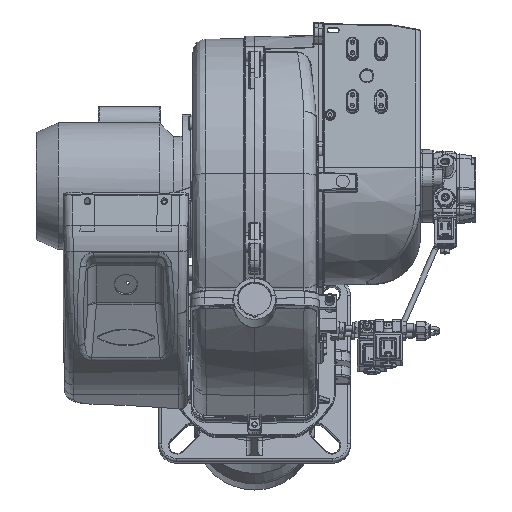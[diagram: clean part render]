
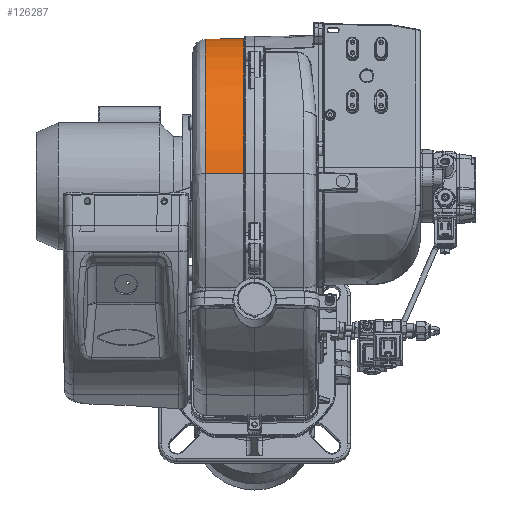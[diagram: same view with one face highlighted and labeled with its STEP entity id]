
A CAD part, top view. The second image highlights one B-rep face of the part: STEP entity #126287.
In plain terms, the highlighted conical face has half-angle 1 degrees and reference radius 174.291 mm.
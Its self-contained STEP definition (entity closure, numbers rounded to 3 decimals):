
#7101 = EDGE_CURVE ( 'NONE', #110701, #46347, #105419, .T. ) ;
#7154 = CARTESIAN_POINT ( 'NONE',  ( -2162.379, 1737.928, -764.442 ) ) ;
#7243 = CARTESIAN_POINT ( 'NONE',  ( -2162.379, 1770.774, -771.952 ) ) ;
#7850 = CARTESIAN_POINT ( 'NONE',  ( -2162.379, 1887.202, -961.739 ) ) ;
#8339 = B_SPLINE_CURVE_WITH_KNOTS ( 'NONE', 3,
 ( #151496, #53478, #123873, #39995, #137997, #54074, #152091, #68208, #166119, #82270, #180156, #96363, #12220, #110436, #26450, #124497, #40605, #138604, #54689, #152690, #68806, #166714, #82877, #180757, #96971, #12839, #111050, #27061, #125106, #41222, #139214, #55298, #153300, #69405 ),
 .UNSPECIFIED., .F., .F.,
 ( 4, 2, 2, 2, 2, 2, 2, 2, 2, 2, 2, 2, 2, 2, 2, 2, 4 ),
 ( 0., 0.063, 0.125, 0.188, 0.25, 0.313, 0.375, 0.438, 0.5, 0.563, 0.625, 0.688, 0.75, 0.813, 0.875, 0.938, 1. ),
 .UNSPECIFIED. ) ;
#8862 = CARTESIAN_POINT ( 'NONE',  ( -2119.117, 1854.414, -1041.383 ) ) ;
#12220 = CARTESIAN_POINT ( 'NONE',  ( -2119.117, 1848.549, -823.974 ) ) ;
#12839 = CARTESIAN_POINT ( 'NONE',  ( -2119.117, 1887.226, -965.639 ) ) ;
#16878 = VERTEX_POINT ( 'NONE', #41497 ) ;
#19599 = B_SPLINE_CURVE_WITH_KNOTS ( 'NONE', 3,
 ( #63214, #118952, #91433, #7243, #105514, #21423, #119543, #35614, #133645, #49724, #147743, #63818, #161790, #77912, #175842, #92048, #7850, #106117, #22052, #120149, #36225, #134271, #50335 ),
 .UNSPECIFIED., .F., .F.,
 ( 4, 1, 1, 1, 1, 1, 1, 1, 1, 1, 1, 1, 1, 1, 1, 1, 1, 1, 1, 1, 4 ),
 ( 0., 0.062, 0.093, 0.125, 0.187, 0.25, 0.281, 0.312, 0.375, 0.437, 0.5, 0.562, 0.625, 0.687, 0.719, 0.75, 0.812, 0.875, 0.906, 0.937, 1. ),
 .UNSPECIFIED. ) ;
#21054 = CARTESIAN_POINT ( 'NONE',  ( -2147.959, 1854.015, -1041.076 ) ) ;
#21423 = CARTESIAN_POINT ( 'NONE',  ( -2162.379, 1801.88, -785.566 ) ) ;
#22052 = CARTESIAN_POINT ( 'NONE',  ( -2162.379, 1877.702, -998.253 ) ) ;
#22420 = B_SPLINE_CURVE_WITH_KNOTS ( 'NONE', 3,
 ( #77213, #63131, #91350, #7154 ),
 .UNSPECIFIED., .F., .F.,
 ( 4, 4 ),
 ( 0., 1. ),
 .UNSPECIFIED. ) ;
#26281 = ORIENTED_EDGE ( 'NONE', *, *, #36250, .F. ) ;
#26450 = CARTESIAN_POINT ( 'NONE',  ( -2119.117, 1862.041, -842.255 ) ) ;
#27061 = CARTESIAN_POINT ( 'NONE',  ( -2119.117, 1881.978, -987.746 ) ) ;
#33823 = VERTEX_POINT ( 'NONE', #86136 ) ;
#35614 = CARTESIAN_POINT ( 'NONE',  ( -2162.379, 1829.318, -805.567 ) ) ;
#36225 = CARTESIAN_POINT ( 'NONE',  ( -2162.379, 1864.578, -1025.411 ) ) ;
#36250 = EDGE_CURVE ( 'NONE', #16878, #33823, #22420, .T. ) ;
#39995 = CARTESIAN_POINT ( 'NONE',  ( -2119.117, 1767.615, -770.083 ) ) ;
#40605 = CARTESIAN_POINT ( 'NONE',  ( -2119.117, 1873.042, -862.136 ) ) ;
#41222 = CARTESIAN_POINT ( 'NONE',  ( -2119.117, 1873.902, -1008.984 ) ) ;
#41497 = CARTESIAN_POINT ( 'NONE',  ( -2119.117, 1738.038, -763.695 ) ) ;
#46347 = VERTEX_POINT ( 'NONE', #8862 ) ;
#49724 = CARTESIAN_POINT ( 'NONE',  ( -2162.379, 1852.883, -830.015 ) ) ;
#50335 = CARTESIAN_POINT ( 'NONE',  ( -2162.379, 1853.815, -1040.923 ) ) ;
#52381 = EDGE_CURVE ( 'NONE', #16878, #46347, #8339, .T. ) ;
#53478 = CARTESIAN_POINT ( 'NONE',  ( -2119.117, 1745.545, -764.686 ) ) ;
#54074 = CARTESIAN_POINT ( 'NONE',  ( -2119.117, 1788.798, -778.304 ) ) ;
#54689 = CARTESIAN_POINT ( 'NONE',  ( -2119.117, 1881.367, -883.277 ) ) ;
#55298 = CARTESIAN_POINT ( 'NONE',  ( -2119.117, 1863.134, -1028.991 ) ) ;
#55709 = AXIS2_PLACEMENT_3D ( 'NONE', #181487, #83609, #125833 ) ;
#63131 = CARTESIAN_POINT ( 'NONE',  ( -2133.538, 1738.001, -763.944 ) ) ;
#63214 = CARTESIAN_POINT ( 'NONE',  ( -2162.379, 1737.928, -764.442 ) ) ;
#63818 = CARTESIAN_POINT ( 'NONE',  ( -2162.379, 1875.682, -869.114 ) ) ;
#65502 = FACE_OUTER_BOUND ( 'NONE', #160566, .T. ) ;
#68208 = CARTESIAN_POINT ( 'NONE',  ( -2119.117, 1808.732, -789.208 ) ) ;
#68806 = CARTESIAN_POINT ( 'NONE',  ( -2119.117, 1886.873, -905.321 ) ) ;
#69405 = CARTESIAN_POINT ( 'NONE',  ( -2119.117, 1854.414, -1041.383 ) ) ;
#70155 = CARTESIAN_POINT ( 'NONE',  ( -2119.117, 1854.414, -1041.383 ) ) ;
#77213 = CARTESIAN_POINT ( 'NONE',  ( -2119.117, 1738.038, -763.695 ) ) ;
#77912 = CARTESIAN_POINT ( 'NONE',  ( -2162.379, 1887.629, -912.77 ) ) ;
#82270 = CARTESIAN_POINT ( 'NONE',  ( -2119.117, 1827.08, -802.609 ) ) ;
#82877 = CARTESIAN_POINT ( 'NONE',  ( -2119.117, 1889.467, -927.894 ) ) ;
#83609 = DIRECTION ( 'NONE',  ( 1., 0., 0. ) ) ;
#86136 = CARTESIAN_POINT ( 'NONE',  ( -2162.379, 1737.928, -764.442 ) ) ;
#91350 = CARTESIAN_POINT ( 'NONE',  ( -2147.959, 1737.965, -764.193 ) ) ;
#91433 = CARTESIAN_POINT ( 'NONE',  ( -2162.379, 1756.397, -767.614 ) ) ;
#92048 = CARTESIAN_POINT ( 'NONE',  ( -2162.379, 1888.581, -946.713 ) ) ;
#96363 = CARTESIAN_POINT ( 'NONE',  ( -2119.117, 1843.53, -818.282 ) ) ;
#96971 = CARTESIAN_POINT ( 'NONE',  ( -2119.117, 1889.106, -950.612 ) ) ;
#98423 = CONICAL_SURFACE ( 'NONE', #55709, 174.291, 0.017 ) ;
#105419 = B_SPLINE_CURVE_WITH_KNOTS ( 'NONE', 3,
 ( #154051, #21054, #139979, #70155 ),
 .UNSPECIFIED., .F., .F.,
 ( 4, 4 ),
 ( 0., 1. ),
 .UNSPECIFIED. ) ;
#105514 = CARTESIAN_POINT ( 'NONE',  ( -2162.379, 1784.907, -777.242 ) ) ;
#106117 = CARTESIAN_POINT ( 'NONE',  ( -2162.379, 1883.645, -980.307 ) ) ;
#106880 = ORIENTED_EDGE ( 'NONE', *, *, #7101, .F. ) ;
#110436 = CARTESIAN_POINT ( 'NONE',  ( -2119.117, 1857.804, -835.96 ) ) ;
#110701 = VERTEX_POINT ( 'NONE', #138184 ) ;
#111050 = CARTESIAN_POINT ( 'NONE',  ( -2119.117, 1885.795, -973.091 ) ) ;
#113849 = EDGE_CURVE ( 'NONE', #33823, #110701, #19599, .T. ) ;
#118952 = CARTESIAN_POINT ( 'NONE',  ( -2162.379, 1745.332, -765.419 ) ) ;
#119543 = CARTESIAN_POINT ( 'NONE',  ( -2162.379, 1817.625, -796.029 ) ) ;
#120149 = CARTESIAN_POINT ( 'NONE',  ( -2162.379, 1871.582, -1012.046 ) ) ;
#123873 = CARTESIAN_POINT ( 'NONE',  ( -2119.117, 1752.987, -766.167 ) ) ;
#124497 = CARTESIAN_POINT ( 'NONE',  ( -2119.117, 1869.66, -855.343 ) ) ;
#125106 = CARTESIAN_POINT ( 'NONE',  ( -2119.117, 1879.591, -994.949 ) ) ;
#125833 = DIRECTION ( 'NONE',  ( 0., 0.19, 0.982 ) ) ;
#126287 = ADVANCED_FACE ( 'NONE', ( #65502 ), #98423, .T. ) ;
#127204 = ORIENTED_EDGE ( 'NONE', *, *, #113849, .F. ) ;
#133645 = CARTESIAN_POINT ( 'NONE',  ( -2162.379, 1840.366, -815.846 ) ) ;
#134271 = CARTESIAN_POINT ( 'NONE',  ( -2162.379, 1858.352, -1034.902 ) ) ;
#137997 = CARTESIAN_POINT ( 'NONE',  ( -2119.117, 1774.802, -772.519 ) ) ;
#138184 = CARTESIAN_POINT ( 'NONE',  ( -2162.379, 1853.815, -1040.923 ) ) ;
#138604 = CARTESIAN_POINT ( 'NONE',  ( -2119.117, 1878.896, -876.103 ) ) ;
#139214 = CARTESIAN_POINT ( 'NONE',  ( -2119.117, 1870.599, -1015.815 ) ) ;
#139979 = CARTESIAN_POINT ( 'NONE',  ( -2133.538, 1854.214, -1041.23 ) ) ;
#147743 = CARTESIAN_POINT ( 'NONE',  ( -2162.379, 1865.558, -848.82 ) ) ;
#151496 = CARTESIAN_POINT ( 'NONE',  ( -2119.117, 1738.038, -763.695 ) ) ;
#152091 = CARTESIAN_POINT ( 'NONE',  ( -2119.117, 1795.607, -781.653 ) ) ;
#152690 = CARTESIAN_POINT ( 'NONE',  ( -2119.117, 1885.355, -897.887 ) ) ;
#153300 = CARTESIAN_POINT ( 'NONE',  ( -2119.117, 1858.971, -1035.336 ) ) ;
#154051 = CARTESIAN_POINT ( 'NONE',  ( -2162.379, 1853.815, -1040.923 ) ) ;
#160566 = EDGE_LOOP ( 'NONE', ( #106880, #127204, #26281, #162087 ) ) ;
#161790 = CARTESIAN_POINT ( 'NONE',  ( -2162.379, 1883.081, -890.553 ) ) ;
#162087 = ORIENTED_EDGE ( 'NONE', *, *, #52381, .T. ) ;
#166119 = CARTESIAN_POINT ( 'NONE',  ( -2119.117, 1815.048, -793.413 ) ) ;
#166714 = CARTESIAN_POINT ( 'NONE',  ( -2119.117, 1888.929, -920.325 ) ) ;
#175842 = CARTESIAN_POINT ( 'NONE',  ( -2162.379, 1888.978, -931.628 ) ) ;
#180156 = CARTESIAN_POINT ( 'NONE',  ( -2119.117, 1832.795, -807.6 ) ) ;
#180757 = CARTESIAN_POINT ( 'NONE',  ( -2119.117, 1889.556, -943.038 ) ) ;
#181487 = CARTESIAN_POINT ( 'NONE',  ( -2119.117, 1715.224, -936.486 ) ) ;
